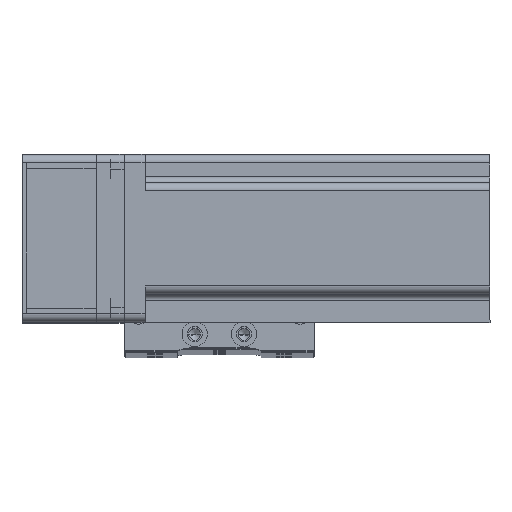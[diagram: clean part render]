
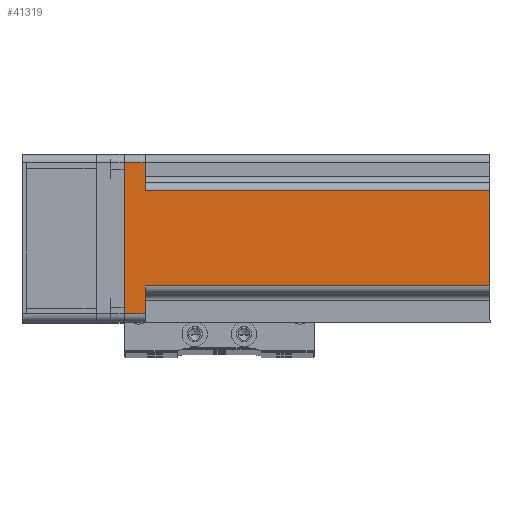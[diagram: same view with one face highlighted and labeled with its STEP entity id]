
A CAD part, top view. The second image highlights one B-rep face of the part: STEP entity #41319.
In plain terms, the highlighted planar face has unit normal (0, 0, 1) as drawn and (0, 1, 0) by its records, which use the part's own axes.
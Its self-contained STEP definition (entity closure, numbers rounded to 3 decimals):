
#465 = VERTEX_POINT ( 'NONE', #11401 ) ;
#513 = VERTEX_POINT ( 'NONE', #42228 ) ;
#1887 = ORIENTED_EDGE ( 'NONE', *, *, #42756, .F. ) ;
#2945 = DIRECTION ( 'NONE',  ( -1., 0., 0. ) ) ;
#3114 = CARTESIAN_POINT ( 'NONE',  ( -27., 30., 130.7 ) ) ;
#4370 = LINE ( 'NONE', #47756, #27688 ) ;
#4733 = ORIENTED_EDGE ( 'NONE', *, *, #50195, .T. ) ;
#4766 = DIRECTION ( 'NONE',  ( -1., 0., 0. ) ) ;
#5120 = ORIENTED_EDGE ( 'NONE', *, *, #30688, .T. ) ;
#5594 = EDGE_CURVE ( 'NONE', #465, #14375, #4370, .T. ) ;
#6840 = FACE_OUTER_BOUND ( 'NONE', #50541, .T. ) ;
#7999 = VERTEX_POINT ( 'NONE', #42181 ) ;
#8027 = VECTOR ( 'NONE', #2945, 1000. ) ;
#8530 = CARTESIAN_POINT ( 'NONE',  ( 17., 30., 7.5 ) ) ;
#8574 = DIRECTION ( 'NONE',  ( 0., -1., 0. ) ) ;
#9315 = VECTOR ( 'NONE', #14348, 1000. ) ;
#11401 = CARTESIAN_POINT ( 'NONE',  ( -27., 30., 7.5 ) ) ;
#11429 = ORIENTED_EDGE ( 'NONE', *, *, #46465, .T. ) ;
#13607 = EDGE_CURVE ( 'NONE', #513, #7999, #41083, .T. ) ;
#14348 = DIRECTION ( 'NONE',  ( -1., 0., 0. ) ) ;
#14375 = VERTEX_POINT ( 'NONE', #45204 ) ;
#15353 = VERTEX_POINT ( 'NONE', #48860 ) ;
#17512 = VERTEX_POINT ( 'NONE', #32113 ) ;
#18735 = VECTOR ( 'NONE', #27716, 1000. ) ;
#19797 = DIRECTION ( 'NONE',  ( 0., 0., 1. ) ) ;
#20023 = LINE ( 'NONE', #3114, #18735 ) ;
#21307 = AXIS2_PLACEMENT_3D ( 'NONE', #33361, #8574, #37508 ) ;
#21484 = EDGE_CURVE ( 'NONE', #15353, #27052, #42358, .T. ) ;
#23386 = LINE ( 'NONE', #37863, #33089 ) ;
#23627 = CARTESIAN_POINT ( 'NONE',  ( -17., 30., 130.7 ) ) ;
#26739 = LINE ( 'NONE', #23627, #47481 ) ;
#26960 = EDGE_CURVE ( 'NONE', #27052, #465, #20023, .T. ) ;
#27052 = VERTEX_POINT ( 'NONE', #40934 ) ;
#27688 = VECTOR ( 'NONE', #51934, 1000. ) ;
#27716 = DIRECTION ( 'NONE',  ( 0., 0., 1. ) ) ;
#28233 = VECTOR ( 'NONE', #51050, 1000. ) ;
#28836 = ORIENTED_EDGE ( 'NONE', *, *, #13607, .F. ) ;
#30411 = CARTESIAN_POINT ( 'NONE',  ( 27., 30., 130.7 ) ) ;
#30688 = EDGE_CURVE ( 'NONE', #17512, #15353, #50258, .T. ) ;
#31098 = LINE ( 'NONE', #53060, #40811 ) ;
#31898 = CARTESIAN_POINT ( 'NONE',  ( 30., 30., 130.7 ) ) ;
#32113 = CARTESIAN_POINT ( 'NONE',  ( 27., 30., 7.5 ) ) ;
#33089 = VECTOR ( 'NONE', #4766, 1000. ) ;
#33361 = CARTESIAN_POINT ( 'NONE',  ( 30., 30., 130.7 ) ) ;
#37341 = PLANE ( 'NONE',  #21307 ) ;
#37508 = DIRECTION ( 'NONE',  ( 1., 0., 0. ) ) ;
#37744 = ORIENTED_EDGE ( 'NONE', *, *, #26960, .T. ) ;
#37863 = CARTESIAN_POINT ( 'NONE',  ( 20., 30., 7.5 ) ) ;
#38120 = VERTEX_POINT ( 'NONE', #8530 ) ;
#38762 = ORIENTED_EDGE ( 'NONE', *, *, #21484, .T. ) ;
#39167 = CARTESIAN_POINT ( 'NONE',  ( 30., 30., 0. ) ) ;
#40811 = VECTOR ( 'NONE', #44892, 1000. ) ;
#40934 = CARTESIAN_POINT ( 'NONE',  ( -27., 30., 0. ) ) ;
#41083 = LINE ( 'NONE', #31898, #8027 ) ;
#41319 = ADVANCED_FACE ( 'NONE', ( #6840 ), #37341, .F. ) ;
#42181 = CARTESIAN_POINT ( 'NONE',  ( -17., 30., 130.7 ) ) ;
#42228 = CARTESIAN_POINT ( 'NONE',  ( 17., 30., 130.7 ) ) ;
#42358 = LINE ( 'NONE', #39167, #9315 ) ;
#42756 = EDGE_CURVE ( 'NONE', #17512, #38120, #23386, .T. ) ;
#42987 = ORIENTED_EDGE ( 'NONE', *, *, #5594, .T. ) ;
#44892 = DIRECTION ( 'NONE',  ( 0., 0., -1. ) ) ;
#45204 = CARTESIAN_POINT ( 'NONE',  ( -17., 30., 7.5 ) ) ;
#46465 = EDGE_CURVE ( 'NONE', #513, #38120, #31098, .T. ) ;
#47481 = VECTOR ( 'NONE', #19797, 1000. ) ;
#47756 = CARTESIAN_POINT ( 'NONE',  ( -20., 30., 7.5 ) ) ;
#48860 = CARTESIAN_POINT ( 'NONE',  ( 27., 30., 0. ) ) ;
#50195 = EDGE_CURVE ( 'NONE', #14375, #7999, #26739, .T. ) ;
#50258 = LINE ( 'NONE', #30411, #28233 ) ;
#50541 = EDGE_LOOP ( 'NONE', ( #42987, #4733, #28836, #11429, #1887, #5120, #38762, #37744 ) ) ;
#51050 = DIRECTION ( 'NONE',  ( 0., 0., -1. ) ) ;
#51934 = DIRECTION ( 'NONE',  ( 1., 0., 0. ) ) ;
#53060 = CARTESIAN_POINT ( 'NONE',  ( 17., 30., 130.7 ) ) ;
